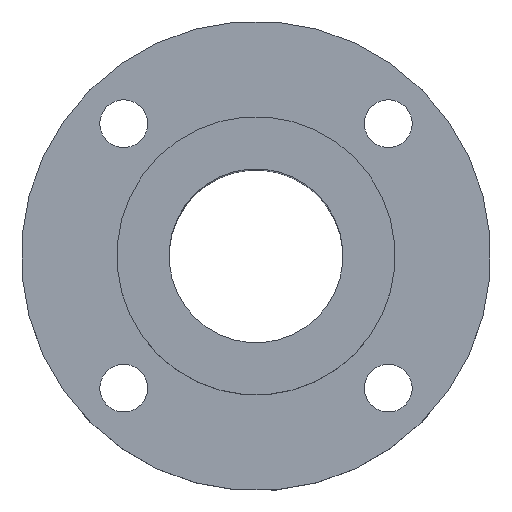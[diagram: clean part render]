
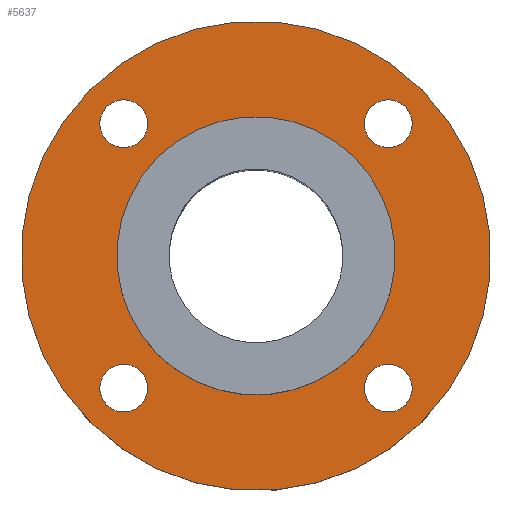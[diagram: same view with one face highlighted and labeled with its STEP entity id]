
A CAD part, top view. The second image highlights one B-rep face of the part: STEP entity #5637.
In plain terms, the highlighted planar face has unit normal (0, 0, 1).
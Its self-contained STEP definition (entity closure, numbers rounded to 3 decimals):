
#112=CIRCLE('',#5995,16.);
#116=CIRCLE('',#6003,27.);
#117=CIRCLE('',#6005,2.75);
#118=CIRCLE('',#6006,2.75);
#119=CIRCLE('',#6007,2.75);
#120=CIRCLE('',#6008,2.75);
#516=ORIENTED_EDGE('',*,*,#2130,.F.);
#517=ORIENTED_EDGE('',*,*,#2131,.F.);
#518=ORIENTED_EDGE('',*,*,#2132,.F.);
#519=ORIENTED_EDGE('',*,*,#2133,.F.);
#520=ORIENTED_EDGE('',*,*,#2125,.T.);
#521=ORIENTED_EDGE('',*,*,#2129,.T.);
#2125=EDGE_CURVE('',#2935,#2935,#112,.F.);
#2129=EDGE_CURVE('',#2939,#2939,#116,.T.);
#2130=EDGE_CURVE('',#2940,#2940,#117,.T.);
#2131=EDGE_CURVE('',#2941,#2941,#118,.T.);
#2132=EDGE_CURVE('',#2942,#2942,#119,.T.);
#2133=EDGE_CURVE('',#2943,#2943,#120,.T.);
#2935=VERTEX_POINT('',#8939);
#2939=VERTEX_POINT('',#8951);
#2940=VERTEX_POINT('',#8954);
#2941=VERTEX_POINT('',#8956);
#2942=VERTEX_POINT('',#8958);
#2943=VERTEX_POINT('',#8960);
#4610=EDGE_LOOP('',(#516));
#4611=EDGE_LOOP('',(#517));
#4612=EDGE_LOOP('',(#518));
#4613=EDGE_LOOP('',(#519));
#4614=EDGE_LOOP('',(#520));
#4615=EDGE_LOOP('',(#521));
#5022=FACE_BOUND('',#4610,.T.);
#5023=FACE_BOUND('',#4611,.T.);
#5024=FACE_BOUND('',#4612,.T.);
#5025=FACE_BOUND('',#4613,.T.);
#5026=FACE_BOUND('',#4614,.T.);
#5027=FACE_BOUND('',#4615,.T.);
#5376=PLANE('',#6004);
#5637=ADVANCED_FACE('',(#5022,#5023,#5024,#5025,#5026,#5027),#5376,.T.);
#5995=AXIS2_PLACEMENT_3D('',#8938,#6514,#6515);
#6003=AXIS2_PLACEMENT_3D('',#8950,#6530,#6531);
#6004=AXIS2_PLACEMENT_3D('',#8952,#6532,#6533);
#6005=AXIS2_PLACEMENT_3D('',#8953,#6534,#6535);
#6006=AXIS2_PLACEMENT_3D('',#8955,#6536,#6537);
#6007=AXIS2_PLACEMENT_3D('',#8957,#6538,#6539);
#6008=AXIS2_PLACEMENT_3D('',#8959,#6540,#6541);
#6514=DIRECTION('',(0.,0.,1.));
#6515=DIRECTION('',(0.707,-0.707,0.));
#6530=DIRECTION('',(0.,0.,1.));
#6531=DIRECTION('',(0.707,-0.707,0.));
#6532=DIRECTION('',(0.,0.,1.));
#6533=DIRECTION('',(0.707,-0.707,0.));
#6534=DIRECTION('',(0.,0.,1.));
#6535=DIRECTION('',(0.707,-0.707,0.));
#6536=DIRECTION('',(0.,0.,1.));
#6537=DIRECTION('',(0.707,-0.707,0.));
#6538=DIRECTION('',(0.,0.,1.));
#6539=DIRECTION('',(0.707,-0.707,0.));
#6540=DIRECTION('',(0.,0.,1.));
#6541=DIRECTION('',(0.707,-0.707,0.));
#8938=CARTESIAN_POINT('',(0.,0.,0.));
#8939=CARTESIAN_POINT('',(11.314,-11.314,0.));
#8950=CARTESIAN_POINT('',(0.,0.,0.));
#8951=CARTESIAN_POINT('',(19.092,-19.092,0.));
#8952=CARTESIAN_POINT('',(0.,0.,0.));
#8953=CARTESIAN_POINT('',(15.203,15.203,0.));
#8954=CARTESIAN_POINT('',(17.147,13.258,0.));
#8955=CARTESIAN_POINT('',(-15.203,15.203,0.));
#8956=CARTESIAN_POINT('',(-13.258,13.258,0.));
#8957=CARTESIAN_POINT('',(-15.203,-15.203,0.));
#8958=CARTESIAN_POINT('',(-13.258,-17.147,0.));
#8959=CARTESIAN_POINT('',(15.203,-15.203,0.));
#8960=CARTESIAN_POINT('',(17.147,-17.147,0.));
